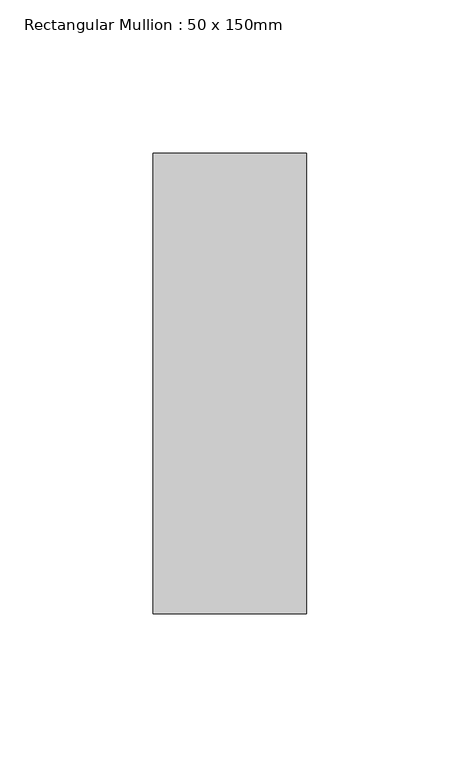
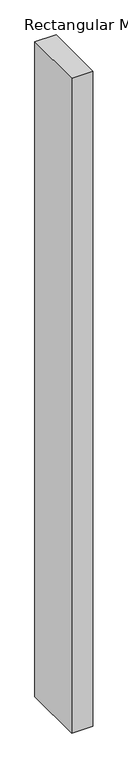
"""IFC4 building model written with IfcOpenShell, lengths in millimetres: member geometry, Rectangular Mullion : 50 x 150mm."""

from ifc_helpers import new_model, si_unit, frame, origin, place, context, project, spatial, polyline, outline, extrude, source, transform, mapped, element, save


def rectangular_mullion_50_x_150mm_bf0cb304(model_context):
    return source(origin(), model_context, "Body", "SweptSolid", [
        extrude(outline(polyline([(25.0, 75.0), (25.0, -75.0), (-25.0, -75.0), (-25.0, 75.0), (25.0, 75.0)])), frame((0.0, 0.0, -1637.0), z_axis=(0.0, 0.0, 1.0), x_axis=(1.0, 0.0, 0.0)), (0.0, 0.0, 1.0), 1637.0),
    ])


if __name__ == "__main__":
    model = new_model("IFC4")
    model_context = context("Model", 3, world=origin())
    ifc_project = project(units=[si_unit("LENGTHUNIT", "METRE", prefix="MILLI")], contexts=[model_context])
    site = spatial("IfcSite", under=ifc_project)
    building = spatial("IfcBuilding", under=site)
    placement = place(None, origin())
    rectangular_mullion_50_x_150mm_shape = rectangular_mullion_50_x_150mm_bf0cb304(model_context)
    element("IfcMember", 1, ObjectType="Rectangular Mullion : 50 x 150mm", at=placement, inside=building, context=model_context, shape_type="MappedRepresentation", body=[
        mapped(rectangular_mullion_50_x_150mm_shape, transform((0.0, 0.0, 0.0), x_axis=(1.0, 0.0, 0.0), y_axis=(0.0, 1.0, 0.0), z_axis=(0.0, 0.0, 1.0))),
    ])
    save(model, "model.ifc")
